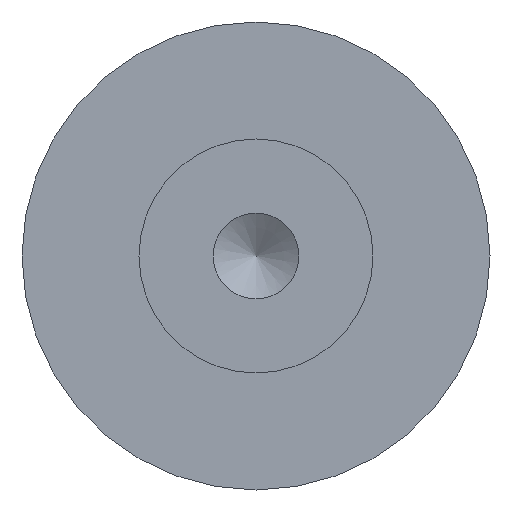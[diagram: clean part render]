
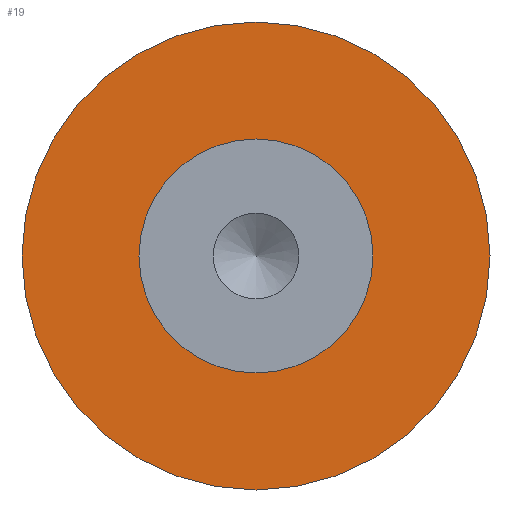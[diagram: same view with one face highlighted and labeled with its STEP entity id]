
A CAD part, front view. The second image highlights one B-rep face of the part: STEP entity #19.
In plain terms, the highlighted planar face has unit normal (0, -1, 0).
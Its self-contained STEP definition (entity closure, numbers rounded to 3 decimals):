
#6 = VERTEX_POINT ( 'NONE', #34 ) ;
#10 = AXIS2_PLACEMENT_3D ( 'NONE', #96, #84, #72 ) ;
#14 = EDGE_CURVE ( 'NONE', #6, #6, #103, .T. ) ;
#19 = ADVANCED_FACE ( 'NONE', ( #133, #119 ), #22, .F. ) ;
#22 = PLANE ( 'NONE',  #31 ) ;
#31 = AXIS2_PLACEMENT_3D ( 'NONE', #71, #163, #118 ) ;
#34 = CARTESIAN_POINT ( 'NONE',  ( 0., 4.5, 4.5 ) ) ;
#35 = EDGE_LOOP ( 'NONE', ( #70 ) ) ;
#47 = ORIENTED_EDGE ( 'NONE', *, *, #146, .F. ) ;
#57 = AXIS2_PLACEMENT_3D ( 'NONE', #86, #123, #101 ) ;
#58 = CARTESIAN_POINT ( 'NONE',  ( 0., 4.5, 9. ) ) ;
#66 = CIRCLE ( 'NONE', #57, 9. ) ;
#70 = ORIENTED_EDGE ( 'NONE', *, *, #14, .T. ) ;
#71 = CARTESIAN_POINT ( 'NONE',  ( 0., 4.5, -4.5 ) ) ;
#72 = DIRECTION ( 'NONE',  ( 0., 0., 1. ) ) ;
#82 = VERTEX_POINT ( 'NONE', #58 ) ;
#84 = DIRECTION ( 'NONE',  ( 0., 1., 0. ) ) ;
#86 = CARTESIAN_POINT ( 'NONE',  ( 0., 4.5, 0. ) ) ;
#96 = CARTESIAN_POINT ( 'NONE',  ( 0., 4.5, 0. ) ) ;
#101 = DIRECTION ( 'NONE',  ( 0., 0., 1. ) ) ;
#103 = CIRCLE ( 'NONE', #10, 4.5 ) ;
#104 = EDGE_LOOP ( 'NONE', ( #47 ) ) ;
#118 = DIRECTION ( 'NONE',  ( 0., 0., 1. ) ) ;
#119 = FACE_BOUND ( 'NONE', #35, .T. ) ;
#123 = DIRECTION ( 'NONE',  ( 0., 1., 0. ) ) ;
#133 = FACE_OUTER_BOUND ( 'NONE', #104, .T. ) ;
#146 = EDGE_CURVE ( 'NONE', #82, #82, #66, .T. ) ;
#163 = DIRECTION ( 'NONE',  ( 0., 1., 0. ) ) ;
